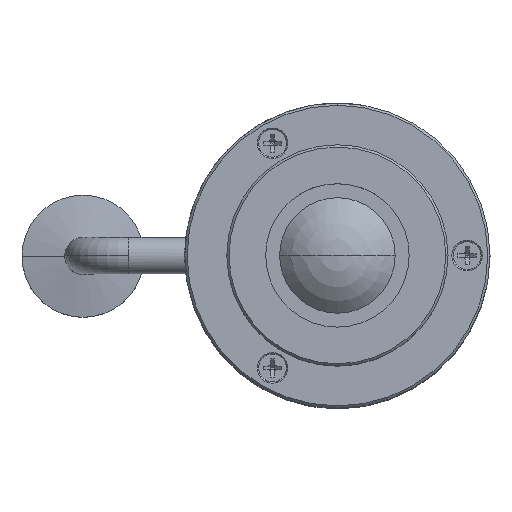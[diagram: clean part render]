
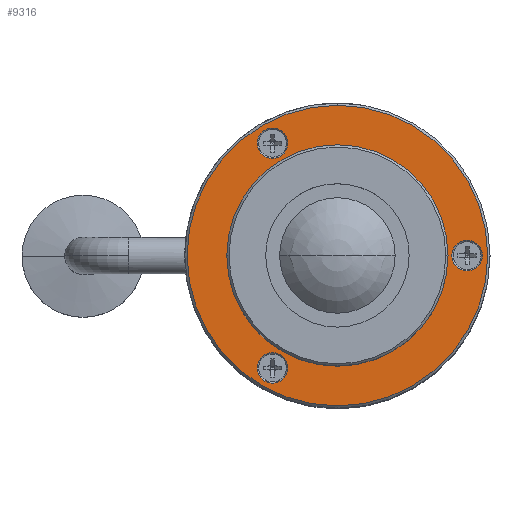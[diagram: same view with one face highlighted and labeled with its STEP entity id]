
A CAD part, top view. The second image highlights one B-rep face of the part: STEP entity #9316.
In plain terms, the highlighted planar face has unit normal (0, 0, 1).
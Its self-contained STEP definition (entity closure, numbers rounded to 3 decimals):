
#519=CARTESIAN_POINT('',(0.,0.,53.));
#520=DIRECTION('',(0.,0.,-1.));
#521=DIRECTION('',(-1.,0.,0.));
#522=AXIS2_PLACEMENT_3D('',#519,#520,#521);
#524=CARTESIAN_POINT('',(0.,0.,53.));
#525=DIRECTION('',(0.,0.,-1.));
#526=DIRECTION('',(1.,0.,0.));
#527=AXIS2_PLACEMENT_3D('',#524,#525,#526);
#529=CARTESIAN_POINT('',(17.,0.,53.));
#530=DIRECTION('',(0.,0.,-1.));
#531=DIRECTION('',(0.5,0.866,0.));
#532=AXIS2_PLACEMENT_3D('',#529,#530,#531);
#534=CARTESIAN_POINT('',(17.,0.,53.));
#535=DIRECTION('',(0.,0.,-1.));
#536=DIRECTION('',(-0.5,-0.866,0.));
#537=AXIS2_PLACEMENT_3D('',#534,#535,#536);
#539=CARTESIAN_POINT('',(-8.5,-14.722,53.));
#540=DIRECTION('',(0.,0.,-1.));
#541=DIRECTION('',(0.5,-0.866,0.));
#542=AXIS2_PLACEMENT_3D('',#539,#540,#541);
#544=CARTESIAN_POINT('',(-8.5,-14.722,53.));
#545=DIRECTION('',(0.,0.,-1.));
#546=DIRECTION('',(-0.5,0.866,0.));
#547=AXIS2_PLACEMENT_3D('',#544,#545,#546);
#549=CARTESIAN_POINT('',(-8.5,14.722,53.));
#550=DIRECTION('',(0.,0.,-1.));
#551=DIRECTION('',(-1.,0.,0.));
#552=AXIS2_PLACEMENT_3D('',#549,#550,#551);
#554=CARTESIAN_POINT('',(-8.5,14.722,53.));
#555=DIRECTION('',(0.,0.,-1.));
#556=DIRECTION('',(1.,0.,0.));
#557=AXIS2_PLACEMENT_3D('',#554,#555,#556);
#559=CARTESIAN_POINT('',(0.,0.,53.));
#560=DIRECTION('',(0.,0.,1.));
#561=DIRECTION('',(0.,-1.,0.));
#562=AXIS2_PLACEMENT_3D('',#559,#560,#561);
#564=CARTESIAN_POINT('',(0.,0.,53.));
#565=DIRECTION('',(0.,0.,1.));
#566=DIRECTION('',(0.,1.,0.));
#567=AXIS2_PLACEMENT_3D('',#564,#565,#566);
#7264=CARTESIAN_POINT('',(-14.5,0.,53.));
#7265=VERTEX_POINT('',#7264);
#7266=CARTESIAN_POINT('',(14.5,0.,53.));
#7267=VERTEX_POINT('',#7266);
#7268=CARTESIAN_POINT('',(0.,19.7,53.));
#7269=CARTESIAN_POINT('',(0.,-19.7,53.));
#7270=VERTEX_POINT('',#7268);
#7271=VERTEX_POINT('',#7269);
#7272=CARTESIAN_POINT('',(-6.5,14.722,53.));
#7273=CARTESIAN_POINT('',(-10.5,14.722,53.));
#7274=VERTEX_POINT('',#7272);
#7275=VERTEX_POINT('',#7273);
#7276=CARTESIAN_POINT('',(-9.5,-12.99,53.));
#7277=CARTESIAN_POINT('',(-7.5,-16.454,53.));
#7278=VERTEX_POINT('',#7276);
#7279=VERTEX_POINT('',#7277);
#7280=CARTESIAN_POINT('',(16.,-1.732,53.));
#7281=CARTESIAN_POINT('',(18.,1.732,53.));
#7282=VERTEX_POINT('',#7280);
#7283=VERTEX_POINT('',#7281);
#9282=CARTESIAN_POINT('',(0.,0.,53.));
#9283=DIRECTION('',(0.,0.,1.));
#9284=DIRECTION('',(-1.,0.,0.));
#9285=AXIS2_PLACEMENT_3D('',#9282,#9283,#9284);
#9286=PLANE('',#9285);
#9288=ORIENTED_EDGE('',*,*,#9287,.F.);
#9290=ORIENTED_EDGE('',*,*,#9289,.F.);
#9291=EDGE_LOOP('',(#9288,#9290));
#9292=FACE_OUTER_BOUND('',#9291,.F.);
#9294=ORIENTED_EDGE('',*,*,#9293,.F.);
#9296=ORIENTED_EDGE('',*,*,#9295,.F.);
#9297=EDGE_LOOP('',(#9294,#9296));
#9298=FACE_BOUND('',#9297,.F.);
#9300=ORIENTED_EDGE('',*,*,#9299,.F.);
#9302=ORIENTED_EDGE('',*,*,#9301,.F.);
#9303=EDGE_LOOP('',(#9300,#9302));
#9304=FACE_BOUND('',#9303,.F.);
#9306=ORIENTED_EDGE('',*,*,#9305,.F.);
#9307=ORIENTED_EDGE('',*,*,#9272,.F.);
#9308=EDGE_LOOP('',(#9306,#9307));
#9309=FACE_BOUND('',#9308,.F.);
#9311=ORIENTED_EDGE('',*,*,#9310,.F.);
#9313=ORIENTED_EDGE('',*,*,#9312,.F.);
#9314=EDGE_LOOP('',(#9311,#9313));
#9315=FACE_BOUND('',#9314,.F.);
#523=CIRCLE('',#522,14.5);
#528=CIRCLE('',#527,14.5);
#533=CIRCLE('',#532,2.);
#538=CIRCLE('',#537,2.);
#543=CIRCLE('',#542,2.);
#548=CIRCLE('',#547,2.);
#553=CIRCLE('',#552,2.);
#558=CIRCLE('',#557,2.);
#563=CIRCLE('',#562,19.7);
#568=CIRCLE('',#567,19.7);
#9272=EDGE_CURVE('',#7274,#7275,#558,.T.);
#9287=EDGE_CURVE('',#7271,#7270,#563,.T.);
#9289=EDGE_CURVE('',#7270,#7271,#568,.T.);
#9293=EDGE_CURVE('',#7283,#7282,#533,.T.);
#9295=EDGE_CURVE('',#7282,#7283,#538,.T.);
#9299=EDGE_CURVE('',#7279,#7278,#543,.T.);
#9301=EDGE_CURVE('',#7278,#7279,#548,.T.);
#9305=EDGE_CURVE('',#7275,#7274,#553,.T.);
#9310=EDGE_CURVE('',#7265,#7267,#523,.T.);
#9312=EDGE_CURVE('',#7267,#7265,#528,.T.);
#9316=ADVANCED_FACE('',(#9292,#9298,#9304,#9309,#9315),#9286,.T.);
